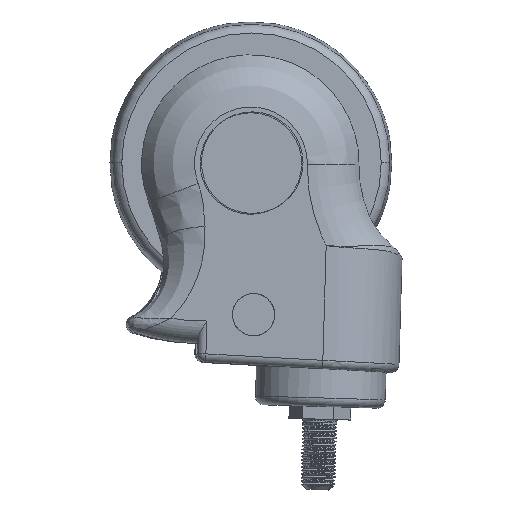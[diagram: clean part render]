
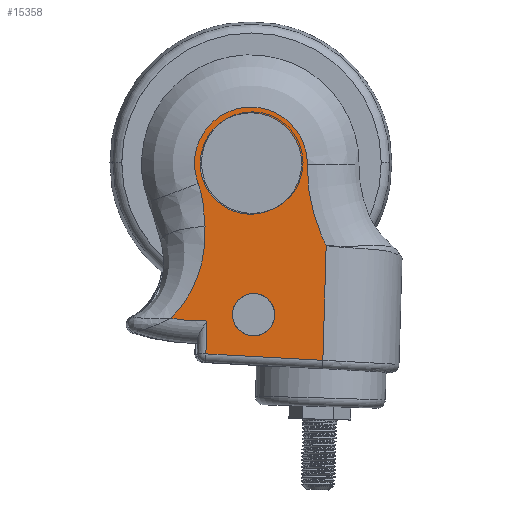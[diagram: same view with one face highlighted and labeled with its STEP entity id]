
A CAD part, top view. The second image highlights one B-rep face of the part: STEP entity #15358.
In plain terms, the highlighted planar face has unit normal (0.018, -0.001, 1) as drawn and (0, 0, -1) by its records, which use the part's own axes.
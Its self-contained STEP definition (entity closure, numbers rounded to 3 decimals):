
#11812=CARTESIAN_POINT('',(-58.942,66.991,
-27.5));
#12652=DIRECTION('',(0.,-1.,0.));
#12653=VECTOR('',#12652,40.624);
#12654=CARTESIAN_POINT('',(-58.942,66.991,
-27.5));
#12655=LINE('',#12654,#12653);
#12668=CARTESIAN_POINT('',(-103.442,-17.673,
-27.5));
#12669=DIRECTION('',(0.,0.,1.));
#12670=DIRECTION('',(0.042,0.999,0.));
#12671=AXIS2_PLACEMENT_3D('',#12668,#12669,#12670);
#12673=CARTESIAN_POINT('',(-113.245,53.657,
-27.5));
#12674=CARTESIAN_POINT('',(-112.152,52.544,
-27.5));
#12675=CARTESIAN_POINT('',(-110.082,50.147,
-27.5));
#12676=CARTESIAN_POINT('',(-107.365,46.064,
-27.5));
#12677=CARTESIAN_POINT('',(-105.037,41.289,
-27.5));
#12678=CARTESIAN_POINT('',(-103.465,36.653,
-27.5));
#12679=CARTESIAN_POINT('',(-102.397,31.82,
-27.5));
#12680=CARTESIAN_POINT('',(-101.851,26.501,
-27.5));
#12681=CARTESIAN_POINT('',(-101.914,22.726,
-27.5));
#12682=CARTESIAN_POINT('',(-102.069,20.774,-27.5));
#12684=CARTESIAN_POINT('',(-102.069,20.774,-27.5));
#12685=CARTESIAN_POINT('',(-102.272,18.22,-27.5));
#12686=CARTESIAN_POINT('',(-102.724,13.108,
-27.5));
#12687=CARTESIAN_POINT('',(-103.964,8.029,
-27.5));
#12688=CARTESIAN_POINT('',(-104.954,5.623,
-27.5));
#12690=CARTESIAN_POINT('',(-104.954,5.623,
-27.5));
#12691=CARTESIAN_POINT('',(-105.498,4.263,
-27.5));
#12692=CARTESIAN_POINT('',(-106.334,1.438,
-27.5));
#12693=CARTESIAN_POINT('',(-106.685,-4.453,
-27.5));
#12694=CARTESIAN_POINT('',(-104.698,-11.686,
-27.5));
#12695=CARTESIAN_POINT('',(-98.835,-18.526,
-27.5));
#12696=CARTESIAN_POINT('',(-90.621,-22.221,-27.5));
#12697=CARTESIAN_POINT('',(-81.615,-22.068,-27.5));
#12698=CARTESIAN_POINT('',(-73.531,-18.097,-27.5));
#12699=CARTESIAN_POINT('',(-67.905,-11.063,
-27.5));
#12700=CARTESIAN_POINT('',(-66.507,-5.224,
-27.5));
#12701=CARTESIAN_POINT('',(-66.462,-2.294,-27.5));
#12703=CARTESIAN_POINT('',(-4.489,-3.237,-27.5));
#12704=DIRECTION('',(0.,0.,-1.));
#12705=DIRECTION('',(-1.,0.015,0.));
#12706=AXIS2_PLACEMENT_3D('',#12703,#12704,#12705);
#12708=CARTESIAN_POINT('',(-4.489,-3.237,-27.5));
#12709=DIRECTION('',(0.,0.,-1.));
#12710=DIRECTION('',(-0.903,0.429,0.));
#12711=AXIS2_PLACEMENT_3D('',#12708,#12709,#12710);
#12713=DIRECTION('',(-1.,-0.026,0.));
#12714=VECTOR('',#12713,41.514);
#12715=CARTESIAN_POINT('',(-58.942,66.991,
-27.5));
#12716=LINE('',#12715,#12714);
#12717=CARTESIAN_POINT('',(-86.46,-1.99,-27.5));
#12718=DIRECTION('',(0.,0.,-1.));
#12719=DIRECTION('',(-1.,0.,0.));
#12720=AXIS2_PLACEMENT_3D('',#12717,#12718,#12719);
#12722=CARTESIAN_POINT('',(-86.46,-1.99,-27.5));
#12723=DIRECTION('',(0.,0.,-1.));
#12724=DIRECTION('',(1.,0.,0.));
#12725=AXIS2_PLACEMENT_3D('',#12722,#12723,#12724);
#12727=CARTESIAN_POINT('',(-83.942,51.527,-27.5));
#12728=DIRECTION('',(0.,0.,-1.));
#12729=DIRECTION('',(-1.,0.,0.));
#12730=AXIS2_PLACEMENT_3D('',#12727,#12728,#12729);
#12732=CARTESIAN_POINT('',(-83.942,51.527,-27.5));
#12733=DIRECTION('',(0.,0.,-1.));
#12734=DIRECTION('',(1.,0.,0.));
#12735=AXIS2_PLACEMENT_3D('',#12732,#12733,#12734);
#12737=DIRECTION('',(0.,1.,0.));
#12738=VECTOR('',#12737,11.64);
#12739=CARTESIAN_POINT('',(-100.442,54.264,
-27.5));
#12740=LINE('',#12739,#12738);
#13862=VERTEX_POINT('',#11812);
#13863=CARTESIAN_POINT('',(-58.942,26.367,
-27.5));
#13864=VERTEX_POINT('',#13863);
#13886=CARTESIAN_POINT('',(-100.442,65.905,-27.5));
#13887=VERTEX_POINT('',#13886);
#13888=CARTESIAN_POINT('',(-100.442,54.264,
-27.5));
#13889=VERTEX_POINT('',#13888);
#13892=CARTESIAN_POINT('',(-113.245,53.657,
-27.5));
#13893=VERTEX_POINT('',#13892);
#13894=VERTEX_POINT('',#12682);
#13895=VERTEX_POINT('',#12688);
#13896=VERTEX_POINT('',#12701);
#13897=CARTESIAN_POINT('',(-60.488,23.328,-27.5));
#13898=VERTEX_POINT('',#13897);
#13899=CARTESIAN_POINT('',(-104.46,-1.99,-27.5));
#13900=CARTESIAN_POINT('',(-68.46,-1.99,-27.5));
#13901=VERTEX_POINT('',#13899);
#13902=VERTEX_POINT('',#13900);
#13903=CARTESIAN_POINT('',(-91.442,51.527,-27.5));
#13904=CARTESIAN_POINT('',(-76.442,51.527,-27.5));
#13905=VERTEX_POINT('',#13903);
#13906=VERTEX_POINT('',#13904);
#15322=CARTESIAN_POINT('',(0.,0.,-27.5));
#15323=DIRECTION('',(0.,0.,1.));
#15324=DIRECTION('',(1.,0.,0.));
#15325=AXIS2_PLACEMENT_3D('',#15322,#15323,#15324);
#15326=PLANE('',#15325);
#15328=ORIENTED_EDGE('',*,*,#15327,.F.);
#15330=ORIENTED_EDGE('',*,*,#15329,.T.);
#15332=ORIENTED_EDGE('',*,*,#15331,.T.);
#15334=ORIENTED_EDGE('',*,*,#15333,.T.);
#15336=ORIENTED_EDGE('',*,*,#15335,.T.);
#15338=ORIENTED_EDGE('',*,*,#15337,.T.);
#15340=ORIENTED_EDGE('',*,*,#15339,.T.);
#15341=ORIENTED_EDGE('',*,*,#15313,.F.);
#15343=ORIENTED_EDGE('',*,*,#15342,.T.);
#15344=EDGE_LOOP('',(#15328,#15330,#15332,#15334,#15336,#15338,#15340,#15341,
#15343));
#15345=FACE_OUTER_BOUND('',#15344,.F.);
#15347=ORIENTED_EDGE('',*,*,#15346,.T.);
#15349=ORIENTED_EDGE('',*,*,#15348,.T.);
#15350=EDGE_LOOP('',(#15347,#15349));
#15351=FACE_BOUND('',#15350,.F.);
#15353=ORIENTED_EDGE('',*,*,#15352,.T.);
#15355=ORIENTED_EDGE('',*,*,#15354,.T.);
#15356=EDGE_LOOP('',(#15353,#15355));
#15357=FACE_BOUND('',#15356,.F.);
#12672=CIRCLE('',#12671,72.);
#12683=B_SPLINE_CURVE_WITH_KNOTS('',3,(#12673,#12674,#12675,#12676,#12677,
#12678,#12679,#12680,#12681,#12682),.UNSPECIFIED.,.F.,.F.,(4,1,1,1,1,1,1,4),(
0.,0.143,0.286,0.429,0.571,
0.714,0.857,1.),.UNSPECIFIED.);
#12689=B_SPLINE_CURVE_WITH_KNOTS('',3,(#12684,#12685,#12686,#12687,#12688),
.UNSPECIFIED.,.F.,.F.,(4,1,4),(0.,0.5,1.),.UNSPECIFIED.);
#12702=B_SPLINE_CURVE_WITH_KNOTS('',3,(#12690,#12691,#12692,#12693,#12694,
#12695,#12696,#12697,#12698,#12699,#12700,#12701),.UNSPECIFIED.,.F.,.F.,(4,1,1,
1,1,1,1,1,1,4),(0.,0.063,0.125,0.25,0.375,0.5,0.625,0.75,
0.875,1.),.UNSPECIFIED.);
#12707=CIRCLE('',#12706,61.98);
#12712=CIRCLE('',#12711,61.98);
#12721=CIRCLE('',#12720,18.);
#12726=CIRCLE('',#12725,18.);
#12731=CIRCLE('',#12730,7.5);
#12736=CIRCLE('',#12735,7.5);
#15313=EDGE_CURVE('',#13862,#13864,#12655,.T.);
#15327=EDGE_CURVE('',#13889,#13887,#12740,.T.);
#15329=EDGE_CURVE('',#13889,#13893,#12672,.T.);
#15331=EDGE_CURVE('',#13893,#13894,#12683,.T.);
#15333=EDGE_CURVE('',#13894,#13895,#12689,.T.);
#15335=EDGE_CURVE('',#13895,#13896,#12702,.T.);
#15337=EDGE_CURVE('',#13896,#13898,#12707,.T.);
#15339=EDGE_CURVE('',#13898,#13864,#12712,.T.);
#15342=EDGE_CURVE('',#13862,#13887,#12716,.T.);
#15346=EDGE_CURVE('',#13901,#13902,#12721,.T.);
#15348=EDGE_CURVE('',#13902,#13901,#12726,.T.);
#15352=EDGE_CURVE('',#13905,#13906,#12731,.T.);
#15354=EDGE_CURVE('',#13906,#13905,#12736,.T.);
#15358=ADVANCED_FACE('',(#15345,#15351,#15357),#15326,.F.);
